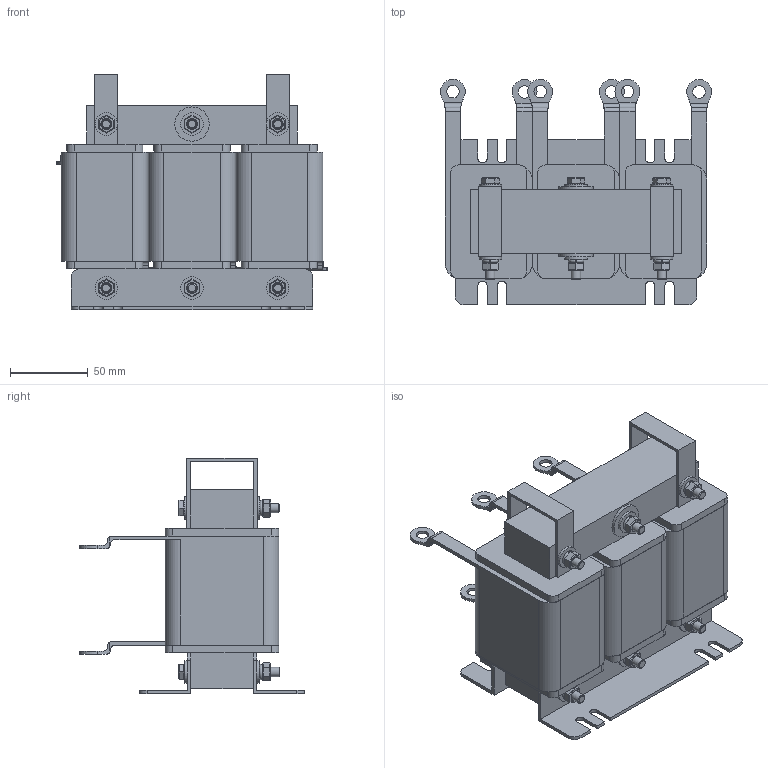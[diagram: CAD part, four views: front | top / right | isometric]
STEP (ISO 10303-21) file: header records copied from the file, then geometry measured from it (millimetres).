
FILE_DESCRIPTION(('STEP AP203'), '1');
FILE_NAME('栖闉罻 _ ISF-30_62-4', '', ('UNSPECIFIED'), ('UNSPECIFIED'), 'ASCON STEP Converter 1.6', 'ASCON Math Kernel', '');
FILE_SCHEMA(('CONFIG_CONTROL_DESIGN'));
Length unit declared in the file: millimetre
Products named in the file (12): ISF-30_62-4
Assembly tree (47 placements, depth 2):
  ISF-30_62-4
    ISF-30_62-4
    ISF-30_62-4  x2
    ISF-30_62-4  x6
    ISF-30_62-4  x3
    ISF-30_62-4
    ISF-30_62-4  x2
    ISF-30_62-4  x2
    ISF-30_62-4  x12
    ISF-30_62-4  x6
    ISF-30_62-4  x6
    ISF-30_62-4  x6
Bounding box: 174 x 144.5 x 151.2 mm (x, y, z)
Volume: 1274086.2 mm3; surface area: 239565.1 mm2
Topology: 47 solids, 47 shells, 628 faces, 1416 edges, 888 vertices
Faces by surface type: plane 448, cylinder 156, cone 18, torus 6
Full cylindrical faces by diameter (mm): 6 x42, 8 x6, 14.5 x12, 22 x2
Entity records: 7104 total; most frequent: CARTESIAN_POINT 1672, DIRECTION 888, ORIENTED_EDGE 754, EDGE_CURVE 377, AXIS2_PLACEMENT_3D 311, LINE 266, VECTOR 266, VERTEX_POINT 257
